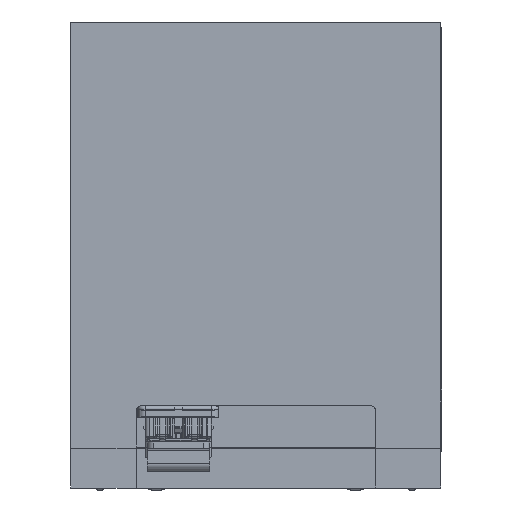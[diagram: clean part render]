
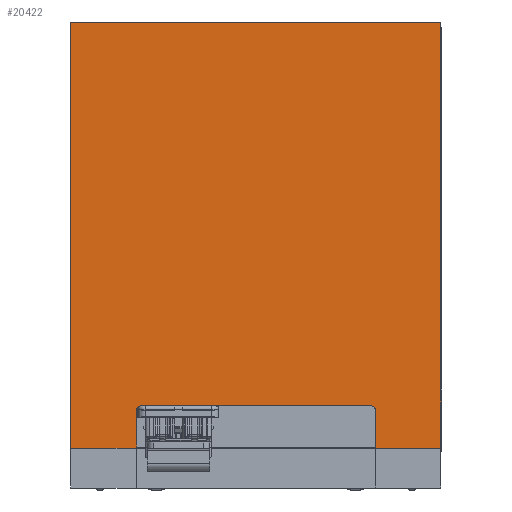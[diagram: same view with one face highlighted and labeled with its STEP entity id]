
A CAD part, left-side view. The second image highlights one B-rep face of the part: STEP entity #20422.
In plain terms, the highlighted planar face has unit normal (-1, 0, 0).
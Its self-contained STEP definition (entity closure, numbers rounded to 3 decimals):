
#1648=DIRECTION('',(0.,0.,1.));
#1649=VECTOR('',#1648,1.);
#1650=CARTESIAN_POINT('',(-47.053,1563.15,-1.05));
#1651=LINE('',#1650,#1649);
#1652=CARTESIAN_POINT('',(-47.053,1450.15,17.25));
#1653=DIRECTION('',(1.,0.,0.));
#1654=DIRECTION('',(0.,0.,1.));
#1655=AXIS2_PLACEMENT_3D('',#1652,#1653,#1654);
#1657=DIRECTION('',(0.,-1.,0.));
#1658=VECTOR('',#1657,74.705);
#1659=CARTESIAN_POINT('',(-47.053,1524.855,19.25));
#1660=LINE('',#1659,#1658);
#1661=DIRECTION('',(0.,-1.,0.));
#1662=VECTOR('',#1661,36.);
#1663=CARTESIAN_POINT('',(-47.053,1560.855,19.25));
#1664=LINE('',#1663,#1662);
#1665=DIRECTION('',(0.,-1.,0.));
#1666=VECTOR('',#1665,0.095);
#1667=CARTESIAN_POINT('',(-47.053,1560.95,19.25));
#1668=LINE('',#1667,#1666);
#1669=CARTESIAN_POINT('',(-47.053,1560.95,17.25));
#1670=DIRECTION('',(1.,0.,0.));
#1671=DIRECTION('',(0.,1.,0.));
#1672=AXIS2_PLACEMENT_3D('',#1669,#1670,#1671);
#1674=DIRECTION('',(0.,0.,1.));
#1675=VECTOR('',#1674,17.3);
#1676=CARTESIAN_POINT('',(-47.053,1562.95,-0.05));
#1677=LINE('',#1676,#1675);
#1678=DIRECTION('',(0.,-1.,0.));
#1679=VECTOR('',#1678,0.2);
#1680=CARTESIAN_POINT('',(-47.053,1563.15,-0.05));
#1681=LINE('',#1680,#1679);
#1698=DIRECTION('',(0.,1.,0.));
#1699=VECTOR('',#1698,31.6);
#1700=CARTESIAN_POINT('',(-47.053,1563.15,-1.05));
#1701=LINE('',#1700,#1699);
#1799=DIRECTION('',(0.,0.,1.));
#1800=VECTOR('',#1799,18.3);
#1801=CARTESIAN_POINT('',(-47.053,1448.15,-1.05));
#1802=LINE('',#1801,#1800);
#1930=DIRECTION('',(0.,1.,0.));
#1931=VECTOR('',#1930,31.4);
#1932=CARTESIAN_POINT('',(-47.053,1416.75,-1.05));
#1933=LINE('',#1932,#1931);
#2128=DIRECTION('',(0.,0.,-1.));
#2129=VECTOR('',#2128,204.8);
#2130=CARTESIAN_POINT('',(-47.053,1416.75,203.75));
#2131=LINE('',#2130,#2129);
#7648=DIRECTION('',(0.,-1.,0.));
#7649=VECTOR('',#7648,178.);
#7650=CARTESIAN_POINT('',(-47.053,1594.75,203.75));
#7651=LINE('',#7650,#7649);
#8151=DIRECTION('',(0.,0.,1.));
#8152=VECTOR('',#8151,204.8);
#8153=CARTESIAN_POINT('',(-47.053,1594.75,-1.05));
#8154=LINE('',#8153,#8152);
#14967=CARTESIAN_POINT('',(-47.053,1594.75,203.75));
#14968=CARTESIAN_POINT('',(-47.053,1416.75,203.75));
#14969=VERTEX_POINT('',#14967);
#14970=VERTEX_POINT('',#14968);
#15157=CARTESIAN_POINT('',(-47.053,1416.75,-1.05));
#15158=VERTEX_POINT('',#15157);
#15203=CARTESIAN_POINT('',(-47.053,1563.15,-1.05));
#15204=CARTESIAN_POINT('',(-47.053,1563.15,-0.05));
#15205=VERTEX_POINT('',#15203);
#15206=VERTEX_POINT('',#15204);
#15207=CARTESIAN_POINT('',(-47.053,1562.95,-0.05));
#15208=VERTEX_POINT('',#15207);
#15209=CARTESIAN_POINT('',(-47.053,1562.95,17.25));
#15210=VERTEX_POINT('',#15209);
#15211=CARTESIAN_POINT('',(-47.053,1560.95,19.25));
#15212=VERTEX_POINT('',#15211);
#15213=CARTESIAN_POINT('',(-47.053,1560.855,
19.25));
#15214=VERTEX_POINT('',#15213);
#15215=CARTESIAN_POINT('',(-47.053,1524.855,
19.25));
#15216=VERTEX_POINT('',#15215);
#15217=CARTESIAN_POINT('',(-47.053,1450.15,
19.25));
#15218=VERTEX_POINT('',#15217);
#15219=CARTESIAN_POINT('',(-47.053,1448.15,17.25));
#15220=VERTEX_POINT('',#15219);
#15221=CARTESIAN_POINT('',(-47.053,1448.15,-1.05));
#15222=VERTEX_POINT('',#15221);
#15223=CARTESIAN_POINT('',(-47.053,1594.75,-1.05));
#15224=VERTEX_POINT('',#15223);
#20388=CARTESIAN_POINT('',(-47.053,1505.547,0.));
#20389=DIRECTION('',(-1.,0.,0.));
#20390=DIRECTION('',(0.,0.,-1.));
#20391=AXIS2_PLACEMENT_3D('',#20388,#20389,#20390);
#20392=PLANE('',#20391);
#20394=ORIENTED_EDGE('',*,*,#20393,.F.);
#20396=ORIENTED_EDGE('',*,*,#20395,.T.);
#20398=ORIENTED_EDGE('',*,*,#20397,.T.);
#20400=ORIENTED_EDGE('',*,*,#20399,.T.);
#20402=ORIENTED_EDGE('',*,*,#20401,.T.);
#20404=ORIENTED_EDGE('',*,*,#20403,.T.);
#20406=ORIENTED_EDGE('',*,*,#20405,.T.);
#20408=ORIENTED_EDGE('',*,*,#20407,.F.);
#20409=ORIENTED_EDGE('',*,*,#20294,.F.);
#20411=ORIENTED_EDGE('',*,*,#20410,.F.);
#20413=ORIENTED_EDGE('',*,*,#20412,.F.);
#20415=ORIENTED_EDGE('',*,*,#20414,.F.);
#20417=ORIENTED_EDGE('',*,*,#20416,.F.);
#20419=ORIENTED_EDGE('',*,*,#20418,.F.);
#20420=EDGE_LOOP('',(#20394,#20396,#20398,#20400,#20402,#20404,#20406,#20408,
#20409,#20411,#20413,#20415,#20417,#20419));
#20421=FACE_OUTER_BOUND('',#20420,.F.);
#20422=ADVANCED_FACE('',(#20421),#20392,.T.);
#1656=CIRCLE('',#1655,2.);
#1673=CIRCLE('',#1672,2.);
#20294=EDGE_CURVE('',#15216,#15218,#1660,.T.);
#20393=EDGE_CURVE('',#15205,#15206,#1651,.T.);
#20395=EDGE_CURVE('',#15205,#15224,#1701,.T.);
#20397=EDGE_CURVE('',#15224,#14969,#8154,.T.);
#20399=EDGE_CURVE('',#14969,#14970,#7651,.T.);
#20401=EDGE_CURVE('',#14970,#15158,#2131,.T.);
#20403=EDGE_CURVE('',#15158,#15222,#1933,.T.);
#20405=EDGE_CURVE('',#15222,#15220,#1802,.T.);
#20407=EDGE_CURVE('',#15218,#15220,#1656,.T.);
#20410=EDGE_CURVE('',#15214,#15216,#1664,.T.);
#20412=EDGE_CURVE('',#15212,#15214,#1668,.T.);
#20414=EDGE_CURVE('',#15210,#15212,#1673,.T.);
#20416=EDGE_CURVE('',#15208,#15210,#1677,.T.);
#20418=EDGE_CURVE('',#15206,#15208,#1681,.T.);
